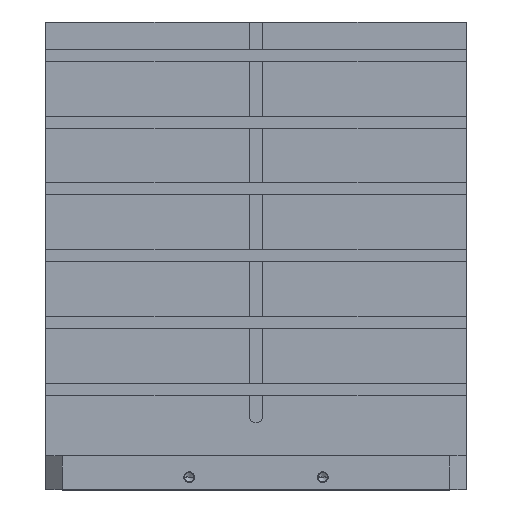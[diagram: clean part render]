
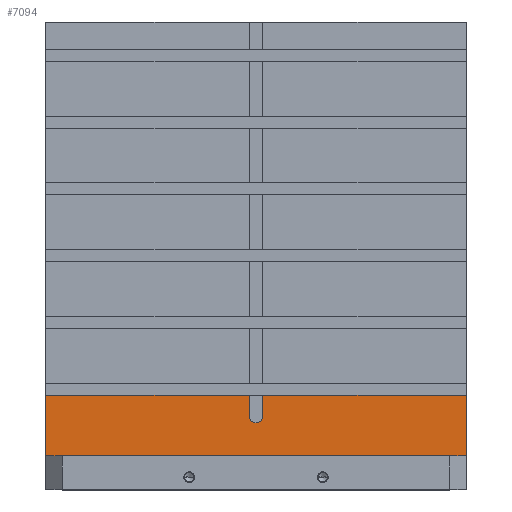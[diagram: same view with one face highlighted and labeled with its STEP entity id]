
A CAD part, top view. The second image highlights one B-rep face of the part: STEP entity #7094.
In plain terms, the highlighted planar face has unit normal (0, 0, 1).
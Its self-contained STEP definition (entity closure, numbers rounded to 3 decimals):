
#69=DIRECTION('',(1.,0.,0.));
#70=VECTOR('',#69,630.);
#71=CARTESIAN_POINT('',(-315.,0.,125.));
#72=LINE('',#71,#70);
#2025=DIRECTION('',(0.,1.,0.));
#2026=VECTOR('',#2025,91.);
#2027=CARTESIAN_POINT('',(315.,0.,125.));
#2028=LINE('',#2027,#2026);
#2385=DIRECTION('',(0.,-1.,0.));
#2386=VECTOR('',#2385,31.);
#2387=CARTESIAN_POINT('',(-10.,91.,125.));
#2388=LINE('',#2387,#2386);
#2389=CARTESIAN_POINT('',(0.,60.,125.));
#2390=DIRECTION('',(0.,0.,1.));
#2391=DIRECTION('',(-1.,0.,0.));
#2392=AXIS2_PLACEMENT_3D('',#2389,#2390,#2391);
#2394=DIRECTION('',(0.,-1.,0.));
#2395=VECTOR('',#2394,31.);
#2396=CARTESIAN_POINT('',(10.,91.,125.));
#2397=LINE('',#2396,#2395);
#2398=DIRECTION('',(1.,0.,0.));
#2399=VECTOR('',#2398,305.);
#2400=CARTESIAN_POINT('',(10.,91.,125.));
#2401=LINE('',#2400,#2399);
#2402=DIRECTION('',(0.,1.,0.));
#2403=VECTOR('',#2402,91.);
#2404=CARTESIAN_POINT('',(-315.,0.,125.));
#2405=LINE('',#2404,#2403);
#2406=DIRECTION('',(1.,0.,0.));
#2407=VECTOR('',#2406,305.);
#2408=CARTESIAN_POINT('',(-315.,91.,125.));
#2409=LINE('',#2408,#2407);
#3201=CARTESIAN_POINT('',(-315.,0.,125.));
#3202=CARTESIAN_POINT('',(315.,0.,125.));
#3203=VERTEX_POINT('',#3201);
#3204=VERTEX_POINT('',#3202);
#3943=CARTESIAN_POINT('',(-315.,91.,125.));
#3944=VERTEX_POINT('',#3943);
#3947=CARTESIAN_POINT('',(315.,91.,125.));
#3948=VERTEX_POINT('',#3947);
#4147=CARTESIAN_POINT('',(10.,91.,125.));
#4149=VERTEX_POINT('',#4147);
#4153=CARTESIAN_POINT('',(-10.,91.,125.));
#4154=VERTEX_POINT('',#4153);
#4211=CARTESIAN_POINT('',(10.,60.,125.));
#4212=VERTEX_POINT('',#4211);
#4213=CARTESIAN_POINT('',(-10.,60.,125.));
#4214=VERTEX_POINT('',#4213);
#7075=CARTESIAN_POINT('',(-315.,0.,125.));
#7076=DIRECTION('',(0.,0.,1.));
#7077=DIRECTION('',(1.,0.,0.));
#7078=AXIS2_PLACEMENT_3D('',#7075,#7076,#7077);
#7079=PLANE('',#7078);
#7081=ORIENTED_EDGE('',*,*,#7080,.T.);
#7083=ORIENTED_EDGE('',*,*,#7082,.T.);
#7084=ORIENTED_EDGE('',*,*,#4876,.F.);
#7086=ORIENTED_EDGE('',*,*,#7085,.T.);
#7087=ORIENTED_EDGE('',*,*,#6737,.F.);
#7088=ORIENTED_EDGE('',*,*,#4224,.F.);
#7089=ORIENTED_EDGE('',*,*,#4564,.T.);
#7091=ORIENTED_EDGE('',*,*,#7090,.T.);
#7092=EDGE_LOOP('',(#7081,#7083,#7084,#7086,#7087,#7088,#7089,#7091));
#7093=FACE_OUTER_BOUND('',#7092,.F.);
#7094=ADVANCED_FACE('',(#7093),#7079,.T.);
#2393=CIRCLE('',#2392,10.);
#4224=EDGE_CURVE('',#3203,#3204,#72,.T.);
#4564=EDGE_CURVE('',#3203,#3944,#2405,.T.);
#4876=EDGE_CURVE('',#4149,#4212,#2397,.T.);
#6737=EDGE_CURVE('',#3204,#3948,#2028,.T.);
#7080=EDGE_CURVE('',#4154,#4214,#2388,.T.);
#7082=EDGE_CURVE('',#4214,#4212,#2393,.T.);
#7085=EDGE_CURVE('',#4149,#3948,#2401,.T.);
#7090=EDGE_CURVE('',#3944,#4154,#2409,.T.);
